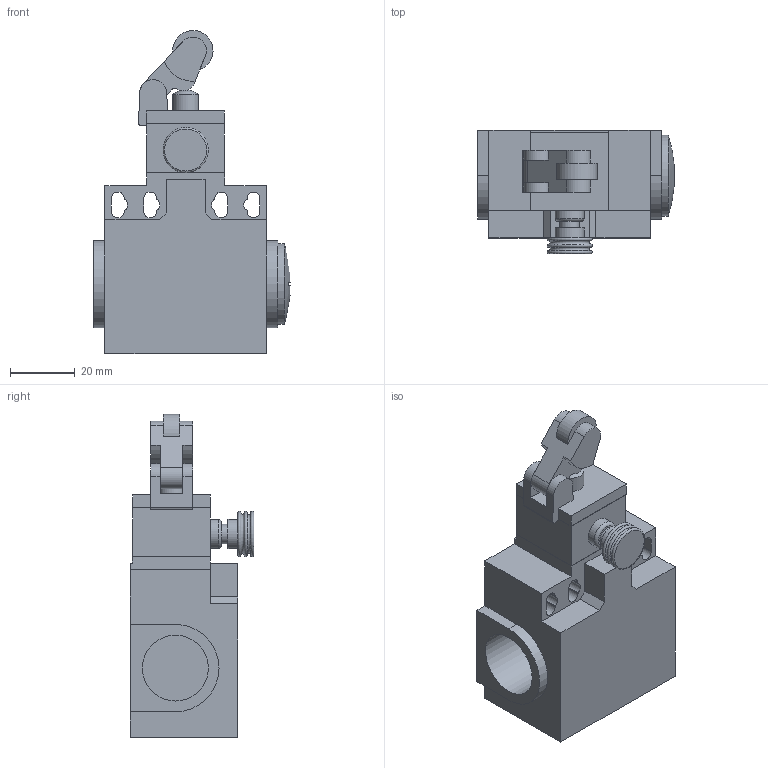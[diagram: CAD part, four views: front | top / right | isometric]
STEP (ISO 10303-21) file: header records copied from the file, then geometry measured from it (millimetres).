
FILE_DESCRIPTION((''),'2;1');
FILE_NAME('D:\Documenti_D\Corrispondenza\Comepi\Catalogo da fare\Modelli Nov 2011\DP\STEP\DP1-R31.iam.step','2011-11-17T12:04:37',(''),(''),'Autodesk Inventor 2010','Autodesk Inventor 2010','');
FILE_SCHEMA(('AUTOMOTIVE_DESIGN { 1 0 10303 214 1 1 1 1 }'));
Length unit declared in the file: millimetre
Products named in the file (9): DP1-R31; DP1; tappo; R31.iam; T31_1; T31_2; T31_3; R
Assembly tree (8 placements, depth 3):
  DP1-R31
    DP1
      DP1
      tappo
    R31.iam
      T31_1
      T31_2
      T31_3
      R
Bounding box: 60.92 x 38.25 x 100 mm (x, y, z)
Volume: 85476.2 mm3; surface area: 26031.6 mm2
Topology: 6 solids, 6 shells, 122 faces, 308 edges, 202 vertices
Faces by surface type: plane 81, cylinder 32, torus 6, sphere 2, cone 1
Full cylindrical faces by diameter (mm): 6 x1, 8 x2, 9 x2, 20.4 x1, 25 x1
Entity records: 3900 total; most frequent: DIRECTION 645, CARTESIAN_POINT 630, ORIENTED_EDGE 582, EDGE_CURVE 291, AXIS2_PLACEMENT_3D 215, VECTOR 215, LINE 215, VERTEX_POINT 200
